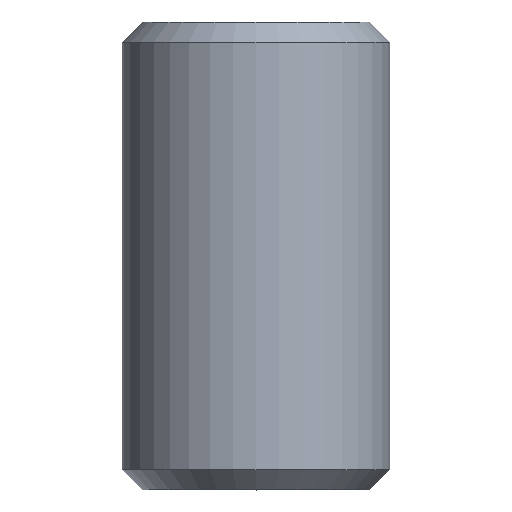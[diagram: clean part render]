
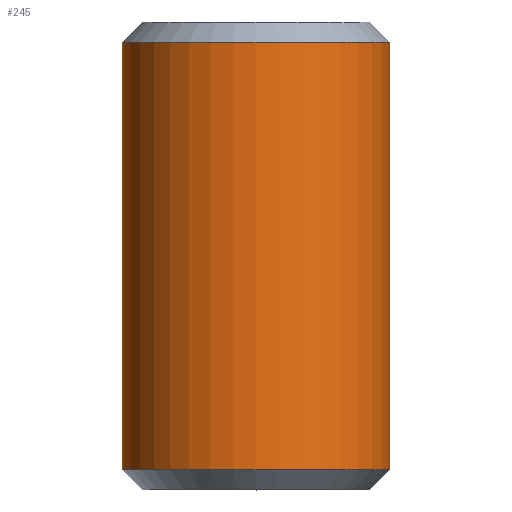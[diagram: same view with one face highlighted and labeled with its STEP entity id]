
A CAD part, top view. The second image highlights one B-rep face of the part: STEP entity #245.
In plain terms, the highlighted cylindrical face has radius 4 mm (diameter 8 mm), a partial arc.
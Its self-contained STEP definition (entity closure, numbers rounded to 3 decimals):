
#44=CARTESIAN_POINT('',(0.,0.6,0.));
#45=DIRECTION('',(0.,1.,0.));
#46=DIRECTION('',(-1.,0.,0.));
#47=AXIS2_PLACEMENT_3D('',#44,#45,#46);
#53=DIRECTION('',(0.,1.,0.));
#54=VECTOR('',#53,12.8);
#55=CARTESIAN_POINT('',(-4.,0.6,0.));
#56=LINE('',#55,#54);
#57=DIRECTION('',(0.,1.,0.));
#58=VECTOR('',#57,12.8);
#59=CARTESIAN_POINT('',(4.,0.6,0.));
#60=LINE('',#59,#58);
#80=CARTESIAN_POINT('',(0.,13.4,0.));
#81=DIRECTION('',(0.,1.,0.));
#82=DIRECTION('',(-1.,0.,0.));
#83=AXIS2_PLACEMENT_3D('',#80,#81,#82);
#165=CARTESIAN_POINT('',(4.,0.6,0.));
#166=CARTESIAN_POINT('',(-4.,0.6,0.));
#167=VERTEX_POINT('',#165);
#168=VERTEX_POINT('',#166);
#173=CARTESIAN_POINT('',(4.,13.4,0.));
#174=CARTESIAN_POINT('',(-4.,13.4,0.));
#175=VERTEX_POINT('',#173);
#176=VERTEX_POINT('',#174);
#231=CARTESIAN_POINT('',(0.,0.,0.));
#232=DIRECTION('',(0.,1.,0.));
#233=DIRECTION('',(1.,0.,0.));
#234=AXIS2_PLACEMENT_3D('',#231,#232,#233);
#235=CYLINDRICAL_SURFACE('',#234,4.);
#236=ORIENTED_EDGE('',*,*,#225,.F.);
#238=ORIENTED_EDGE('',*,*,#237,.T.);
#240=ORIENTED_EDGE('',*,*,#239,.T.);
#242=ORIENTED_EDGE('',*,*,#241,.F.);
#243=EDGE_LOOP('',(#236,#238,#240,#242));
#244=FACE_OUTER_BOUND('',#243,.F.);
#245=ADVANCED_FACE('',(#244),#235,.T.);
#48=CIRCLE('',#47,4.);
#84=CIRCLE('',#83,4.);
#225=EDGE_CURVE('',#168,#167,#48,.T.);
#237=EDGE_CURVE('',#168,#176,#56,.T.);
#239=EDGE_CURVE('',#176,#175,#84,.T.);
#241=EDGE_CURVE('',#167,#175,#60,.T.);
